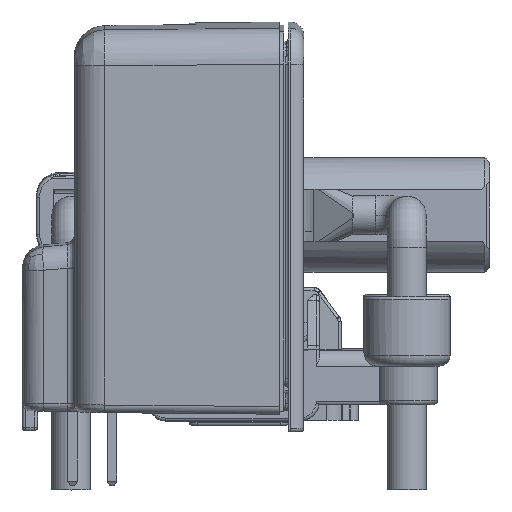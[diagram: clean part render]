
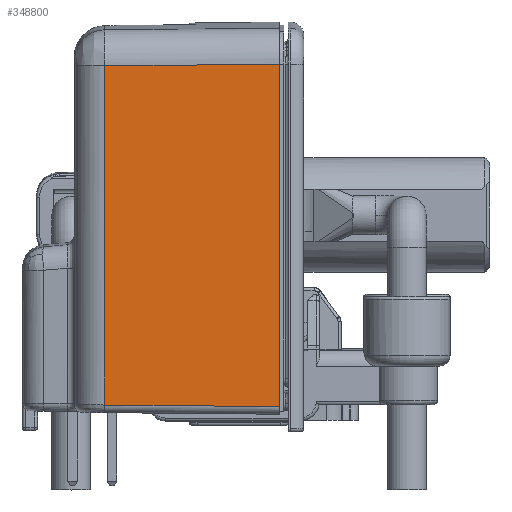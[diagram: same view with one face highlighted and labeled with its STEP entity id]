
A CAD part, front view. The second image highlights one B-rep face of the part: STEP entity #348800.
In plain terms, the highlighted planar face has unit normal (-0.009, -1, -0.01) as drawn and (-0.009, 1, -0.01) by its records, which use the part's own axes.
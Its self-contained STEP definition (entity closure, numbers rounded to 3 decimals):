
#206630=CARTESIAN_POINT('',(0.997,35.306,
12.338));
#206640=VERTEX_POINT('',#206630);
#206670=CARTESIAN_POINT('',(0.997,35.306,
12.335));
#206680=DIRECTION('',(0.,-0.01,
-1.));
#206690=VECTOR('',#206680,1.);
#206700=LINE('',#206670,#206690);
#206710=CARTESIAN_POINT('',(0.997,35.081,
-9.793));
#206720=VERTEX_POINT('',#206710);
#206730=EDGE_CURVE('',#206640,#206720,#206700,.T.);
#308820=CARTESIAN_POINT('',(-10.27,35.206,
12.238));
#308830=VERTEX_POINT('',#308820);
#308860=CARTESIAN_POINT('',(-10.27,35.206,
12.238));
#308870=DIRECTION('',(1.,0.009,
0.009));
#308880=VECTOR('',#308870,1.);
#308890=LINE('',#308860,#308880);
#308900=EDGE_CURVE('',#308830,#206640,#308890,.T.);
#311230=CARTESIAN_POINT('',(-10.27,34.983,
-9.693));
#311240=VERTEX_POINT('',#311230);
#311270=CARTESIAN_POINT('',(-10.27,35.206,
12.238));
#311280=DIRECTION('',(0.,-0.01,
-1.));
#311290=VECTOR('',#311280,1.);
#311300=LINE('',#311270,#311290);
#311310=EDGE_CURVE('',#308830,#311240,#311300,.T.);
#346090=CARTESIAN_POINT('',(0.997,35.081,
-9.793));
#346100=DIRECTION('',(-1.,-0.009,
0.009));
#346110=VECTOR('',#346100,1.);
#346120=LINE('',#346090,#346110);
#346130=EDGE_CURVE('',#206720,#311240,#346120,.T.);
#348690=CARTESIAN_POINT('',(-6.403,35.25,
13.192));
#348700=DIRECTION('',(0.009,-1.,
0.01));
#348710=DIRECTION('',(0.,0.01,
1.));
#348720=AXIS2_PLACEMENT_3D('',#348690,#348700,#348710);
#348730=PLANE('',#348720);
#348740=ORIENTED_EDGE('',*,*,#311310,.F.);
#348750=ORIENTED_EDGE('',*,*,#346130,.T.);
#348760=ORIENTED_EDGE('',*,*,#206730,.T.);
#348770=ORIENTED_EDGE('',*,*,#308900,.T.);
#348780=EDGE_LOOP('',(#348770,#348760,#348750,#348740));
#348790=FACE_OUTER_BOUND('',#348780,.T.);
#348800=ADVANCED_FACE('',(#348790),#348730,.F.);
